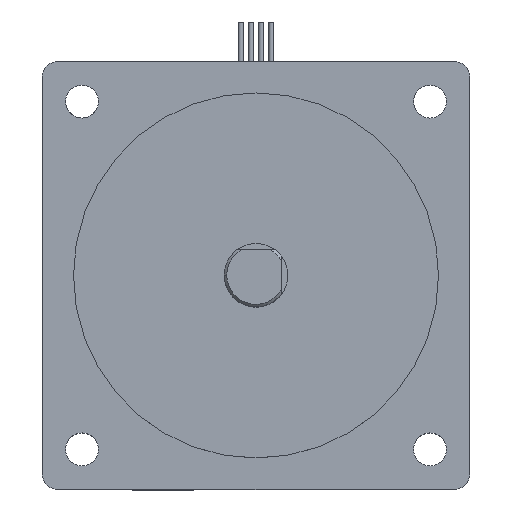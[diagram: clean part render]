
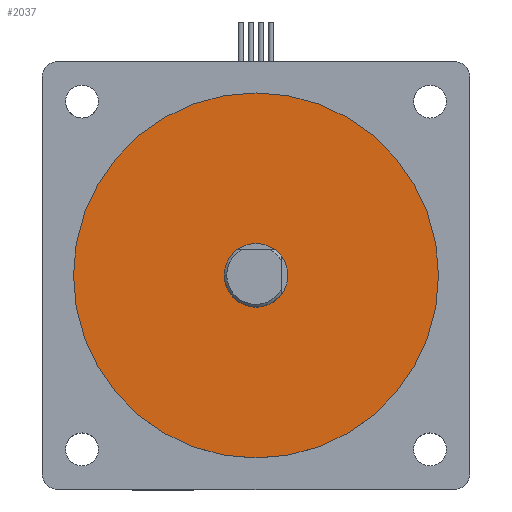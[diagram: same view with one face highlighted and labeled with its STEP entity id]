
A CAD part, top view. The second image highlights one B-rep face of the part: STEP entity #2037.
In plain terms, the highlighted planar face has unit normal (0, 0, 1).
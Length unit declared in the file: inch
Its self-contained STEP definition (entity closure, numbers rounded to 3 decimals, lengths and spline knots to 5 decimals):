
#267=CARTESIAN_POINT('',(-1.4375,0.,2.68));
#268=VERTEX_POINT('',#267);
#284=CARTESIAN_POINT('',(1.4375,0.,2.68));
#285=VERTEX_POINT('',#284);
#292=CARTESIAN_POINT('',(0.0,0.0,2.68));
#293=DIRECTION('',(0.0,0.0,-1.0));
#294=DIRECTION('',(-1.0,0.0,0.0));
#295=AXIS2_PLACEMENT_3D('',#292,#293,#294);
#296=CIRCLE('',#295,1.4375);
#297=EDGE_CURVE('',#285,#268,#296,.T.);
#307=CARTESIAN_POINT('',(-0.25,0.,2.68));
#308=VERTEX_POINT('',#307);
#317=CARTESIAN_POINT('',(0.25,0.,2.68));
#318=VERTEX_POINT('',#317);
#319=CARTESIAN_POINT('',(0.0,0.0,2.68));
#320=DIRECTION('',(0.0,0.0,1.0));
#321=DIRECTION('',(-1.0,0.0,0.0));
#322=AXIS2_PLACEMENT_3D('',#319,#320,#321);
#323=CIRCLE('',#322,0.25);
#324=EDGE_CURVE('',#308,#318,#323,.T.);
#929=CARTESIAN_POINT('',(0.0,0.0,2.68));
#930=DIRECTION('',(0.0,0.0,1.0));
#931=DIRECTION('',(-1.0,0.0,0.0));
#932=AXIS2_PLACEMENT_3D('',#929,#930,#931);
#933=CIRCLE('',#932,0.25);
#934=EDGE_CURVE('',#318,#308,#933,.T.);
#2018=CARTESIAN_POINT('',(0.0,0.0,2.68));
#2019=DIRECTION('',(0.0,0.0,-1.0));
#2020=DIRECTION('',(-1.0,0.0,0.0));
#2021=AXIS2_PLACEMENT_3D('',#2018,#2019,#2020);
#2022=PLANE('',#2021);
#2023=ORIENTED_EDGE('',*,*,#297,.F.);
#2024=CARTESIAN_POINT('',(0.0,0.0,2.68));
#2025=DIRECTION('',(0.0,0.0,-1.0));
#2026=DIRECTION('',(-1.0,0.0,0.0));
#2027=AXIS2_PLACEMENT_3D('',#2024,#2025,#2026);
#2028=CIRCLE('',#2027,1.4375);
#2029=EDGE_CURVE('',#268,#285,#2028,.T.);
#2030=ORIENTED_EDGE('',*,*,#2029,.F.);
#2031=EDGE_LOOP('',(#2023,#2030));
#2032=FACE_OUTER_BOUND('',#2031,.T.);
#2033=ORIENTED_EDGE('',*,*,#934,.F.);
#2034=ORIENTED_EDGE('',*,*,#324,.F.);
#2035=EDGE_LOOP('',(#2033,#2034));
#2036=FACE_BOUND('',#2035,.T.);
#2037=ADVANCED_FACE('',(#2032,#2036),#2022,.F.);
